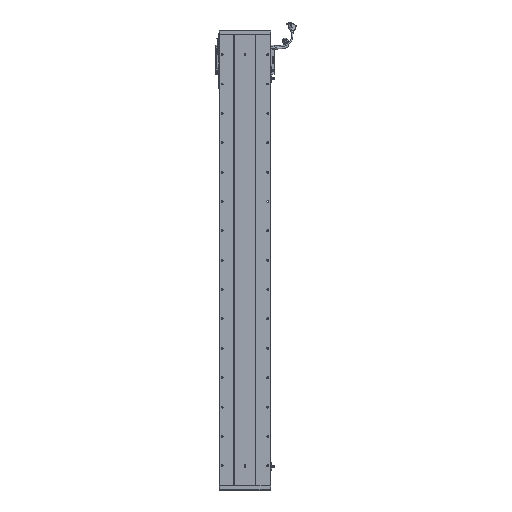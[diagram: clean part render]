
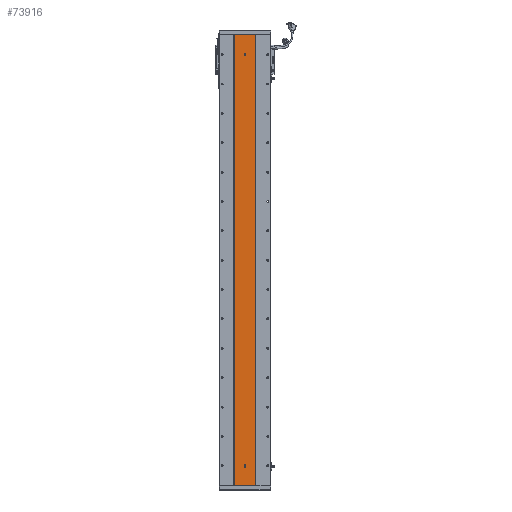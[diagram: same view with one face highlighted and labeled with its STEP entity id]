
A CAD part, front view. The second image highlights one B-rep face of the part: STEP entity #73916.
In plain terms, the highlighted planar face has unit normal (0, -1, 0).
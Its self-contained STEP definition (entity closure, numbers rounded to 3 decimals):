
#489 = EDGE_CURVE ( 'NONE', #87675, #24180, #39146, .T. ) ;
#2537 = CIRCLE ( 'NONE', #67178, 3. ) ;
#3903 = CARTESIAN_POINT ( 'NONE',  ( 3280.529, 1415.701, 64. ) ) ;
#7438 = FACE_OUTER_BOUND ( 'NONE', #22002, .T. ) ;
#7556 = ORIENTED_EDGE ( 'NONE', *, *, #59469, .F. ) ;
#9502 = ORIENTED_EDGE ( 'NONE', *, *, #9678, .F. ) ;
#9678 = EDGE_CURVE ( 'NONE', #85347, #81705, #25350, .T. ) ;
#12005 = DIRECTION ( 'NONE',  ( 0., 0., -1. ) ) ;
#13836 = VECTOR ( 'NONE', #40081, 1000. ) ;
#14753 = EDGE_CURVE ( 'NONE', #81705, #25658, #78718, .T. ) ;
#15179 = DIRECTION ( 'NONE',  ( 0., -1., 0. ) ) ;
#15556 = VECTOR ( 'NONE', #87730, 1000. ) ;
#15912 = VECTOR ( 'NONE', #85732, 1000. ) ;
#15989 = CARTESIAN_POINT ( 'NONE',  ( 3283.529, 1415.701, 70. ) ) ;
#17506 = DIRECTION ( 'NONE',  ( 0., -1., 0. ) ) ;
#19084 = CARTESIAN_POINT ( 'NONE',  ( 3280.529, 1415.701, 1468.5 ) ) ;
#19094 = EDGE_CURVE ( 'NONE', #28612, #53278, #41213, .T. ) ;
#19534 = EDGE_CURVE ( 'NONE', #75490, #83110, #54284, .T. ) ;
#19752 = ORIENTED_EDGE ( 'NONE', *, *, #489, .T. ) ;
#20048 = LINE ( 'NONE', #34255, #86570 ) ;
#21941 = AXIS2_PLACEMENT_3D ( 'NONE', #53071, #15179, #68335 ) ;
#22002 = EDGE_LOOP ( 'NONE', ( #19752, #86124, #73563, #64122 ) ) ;
#23846 = AXIS2_PLACEMENT_3D ( 'NONE', #41231, #93341, #56207 ) ;
#24180 = VERTEX_POINT ( 'NONE', #30400 ) ;
#24607 = CARTESIAN_POINT ( 'NONE',  ( 3283.529, 1415.701, 67. ) ) ;
#24883 = DIRECTION ( 'NONE',  ( 0., 0., -1. ) ) ;
#25350 = LINE ( 'NONE', #15989, #15912 ) ;
#25658 = VERTEX_POINT ( 'NONE', #66682 ) ;
#28612 = VERTEX_POINT ( 'NONE', #28659 ) ;
#28659 = CARTESIAN_POINT ( 'NONE',  ( 3277.529, 1415.701, 67. ) ) ;
#30361 = EDGE_LOOP ( 'NONE', ( #61587, #48755, #91504, #9502, #63252 ) ) ;
#30400 = CARTESIAN_POINT ( 'NONE',  ( 3316.311, 1415.701, 0. ) ) ;
#31777 = DIRECTION ( 'NONE',  ( 0., 0., -1. ) ) ;
#34255 = CARTESIAN_POINT ( 'NONE',  ( 3244.748, 1415.701, 1537. ) ) ;
#36207 = CARTESIAN_POINT ( 'NONE',  ( 3316.311, 1415.701, 1537. ) ) ;
#38219 = EDGE_CURVE ( 'NONE', #53278, #85347, #75033, .T. ) ;
#39146 = LINE ( 'NONE', #58841, #43923 ) ;
#40081 = DIRECTION ( 'NONE',  ( 1., 0., 0. ) ) ;
#40982 = AXIS2_PLACEMENT_3D ( 'NONE', #78668, #78340, #24883 ) ;
#41213 = CIRCLE ( 'NONE', #40982, 3. ) ;
#41231 = CARTESIAN_POINT ( 'NONE',  ( 3244.748, 1415.701, 1537. ) ) ;
#42924 = LINE ( 'NONE', #73099, #15556 ) ;
#43317 = AXIS2_PLACEMENT_3D ( 'NONE', #78886, #86200, #63315 ) ;
#43923 = VECTOR ( 'NONE', #73766, 1000. ) ;
#47631 = VERTEX_POINT ( 'NONE', #94773 ) ;
#48755 = ORIENTED_EDGE ( 'NONE', *, *, #81411, .F. ) ;
#49527 = CARTESIAN_POINT ( 'NONE',  ( 3244.748, 1415.701, 1537. ) ) ;
#49701 = DIRECTION ( 'NONE',  ( 0., -1., 0. ) ) ;
#50434 = EDGE_CURVE ( 'NONE', #75490, #87675, #20048, .T. ) ;
#51033 = CARTESIAN_POINT ( 'NONE',  ( 3280.529, 1415.701, 1465.5 ) ) ;
#51433 = FACE_BOUND ( 'NONE', #30361, .T. ) ;
#51832 = DIRECTION ( 'NONE',  ( 0., 0., -1. ) ) ;
#52702 = EDGE_LOOP ( 'NONE', ( #7556, #75650 ) ) ;
#53071 = CARTESIAN_POINT ( 'NONE',  ( 3280.529, 1415.701, 67. ) ) ;
#53278 = VERTEX_POINT ( 'NONE', #3903 ) ;
#54284 = LINE ( 'NONE', #94500, #13836 ) ;
#54808 = EDGE_CURVE ( 'NONE', #83110, #24180, #61024, .T. ) ;
#55735 = CARTESIAN_POINT ( 'NONE',  ( 3280.529, 1415.701, 1468.5 ) ) ;
#56207 = DIRECTION ( 'NONE',  ( 0., 0., 1. ) ) ;
#58059 = CIRCLE ( 'NONE', #76355, 3. ) ;
#58841 = CARTESIAN_POINT ( 'NONE',  ( 3244.748, 1415.701, 0. ) ) ;
#59469 = EDGE_CURVE ( 'NONE', #73525, #47631, #58059, .T. ) ;
#61024 = LINE ( 'NONE', #74374, #69333 ) ;
#61587 = ORIENTED_EDGE ( 'NONE', *, *, #19094, .F. ) ;
#63252 = ORIENTED_EDGE ( 'NONE', *, *, #38219, .F. ) ;
#63315 = DIRECTION ( 'NONE',  ( 0., 0., -1. ) ) ;
#64122 = ORIENTED_EDGE ( 'NONE', *, *, #50434, .T. ) ;
#65929 = EDGE_CURVE ( 'NONE', #47631, #73525, #2537, .T. ) ;
#66682 = CARTESIAN_POINT ( 'NONE',  ( 3277.529, 1415.701, 70. ) ) ;
#67178 = AXIS2_PLACEMENT_3D ( 'NONE', #55735, #17506, #31777 ) ;
#68335 = DIRECTION ( 'NONE',  ( 0., 0., -1. ) ) ;
#69333 = VECTOR ( 'NONE', #51832, 1000. ) ;
#73099 = CARTESIAN_POINT ( 'NONE',  ( 3277.529, 1415.701, 70. ) ) ;
#73525 = VERTEX_POINT ( 'NONE', #51033 ) ;
#73563 = ORIENTED_EDGE ( 'NONE', *, *, #19534, .F. ) ;
#73766 = DIRECTION ( 'NONE',  ( 1., 0., 0. ) ) ;
#73916 = ADVANCED_FACE ( 'NONE', ( #51433, #75222, #7438 ), #93680, .F. ) ;
#74374 = CARTESIAN_POINT ( 'NONE',  ( 3316.311, 1415.701, 1537. ) ) ;
#75033 = CIRCLE ( 'NONE', #21941, 3. ) ;
#75222 = FACE_BOUND ( 'NONE', #52702, .T. ) ;
#75490 = VERTEX_POINT ( 'NONE', #49527 ) ;
#75650 = ORIENTED_EDGE ( 'NONE', *, *, #65929, .F. ) ;
#76355 = AXIS2_PLACEMENT_3D ( 'NONE', #19084, #49701, #94805 ) ;
#78340 = DIRECTION ( 'NONE',  ( 0., -1., 0. ) ) ;
#78668 = CARTESIAN_POINT ( 'NONE',  ( 3280.529, 1415.701, 67. ) ) ;
#78718 = CIRCLE ( 'NONE', #43317, 3. ) ;
#78886 = CARTESIAN_POINT ( 'NONE',  ( 3280.529, 1415.701, 70. ) ) ;
#81411 = EDGE_CURVE ( 'NONE', #25658, #28612, #42924, .T. ) ;
#81705 = VERTEX_POINT ( 'NONE', #90678 ) ;
#83110 = VERTEX_POINT ( 'NONE', #36207 ) ;
#83991 = CARTESIAN_POINT ( 'NONE',  ( 3244.748, 1415.701, 0. ) ) ;
#85347 = VERTEX_POINT ( 'NONE', #24607 ) ;
#85732 = DIRECTION ( 'NONE',  ( 0., 0., 1. ) ) ;
#86124 = ORIENTED_EDGE ( 'NONE', *, *, #54808, .F. ) ;
#86200 = DIRECTION ( 'NONE',  ( 0., -1., 0. ) ) ;
#86570 = VECTOR ( 'NONE', #12005, 1000. ) ;
#87675 = VERTEX_POINT ( 'NONE', #83991 ) ;
#87730 = DIRECTION ( 'NONE',  ( 0., 0., -1. ) ) ;
#90678 = CARTESIAN_POINT ( 'NONE',  ( 3283.529, 1415.701, 70. ) ) ;
#91504 = ORIENTED_EDGE ( 'NONE', *, *, #14753, .F. ) ;
#93341 = DIRECTION ( 'NONE',  ( 0., 1., 0. ) ) ;
#93680 = PLANE ( 'NONE',  #23846 ) ;
#94500 = CARTESIAN_POINT ( 'NONE',  ( 3244.748, 1415.701, 1537. ) ) ;
#94773 = CARTESIAN_POINT ( 'NONE',  ( 3280.529, 1415.701, 1471.5 ) ) ;
#94805 = DIRECTION ( 'NONE',  ( 0., 0., -1. ) ) ;
